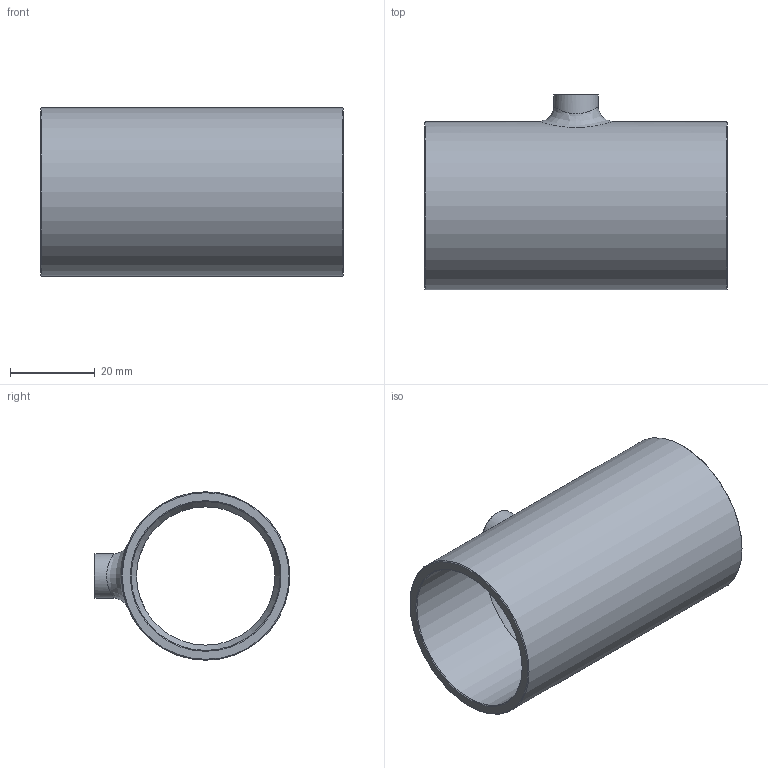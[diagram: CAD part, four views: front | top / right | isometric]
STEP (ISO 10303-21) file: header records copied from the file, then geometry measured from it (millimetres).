
FILE_DESCRIPTION((''),'2;1');
FILE_NAME('G:\SANHA-Ternat\Technik\Management\Bouwmaten + markeringen\z-maattekeningen 3D\29000s\2913013814138_3d.stp','2018-06-04T09:37:15',('vdvijverd'),(''),'Autodesk Inventor 2009','Autodesk Inventor 2009','');
FILE_SCHEMA(('AUTOMOTIVE_DESIGN { 1 0 10303 214 1 1 1 1 }'));
Length unit declared in the file: millimetre
Products named in the file (1): 2913013814138_3d
Bounding box: 71.4 x 46.15 x 39.7 mm (x, y, z)
Volume: 22682.1 mm3; surface area: 17469.9 mm2
Topology: 1 solids, 1 shells, 22 faces, 51 edges, 31 vertices
Faces by surface type: cone 8, cylinder 7, bspline 4, plane 3
Full cylindrical faces by diameter (mm): 6.47 x1, 10.53 x1, 32.6 x1, 35.105 x1, 39.7 x1
Entity records: 1696 total; most frequent: CARTESIAN_POINT 1279, DIRECTION 80, ORIENTED_EDGE 58, EDGE_LOOP 42, AXIS2_PLACEMENT_3D 40, EDGE_CURVE 29, VERTEX_POINT 25, FACE_OUTER_BOUND 22
